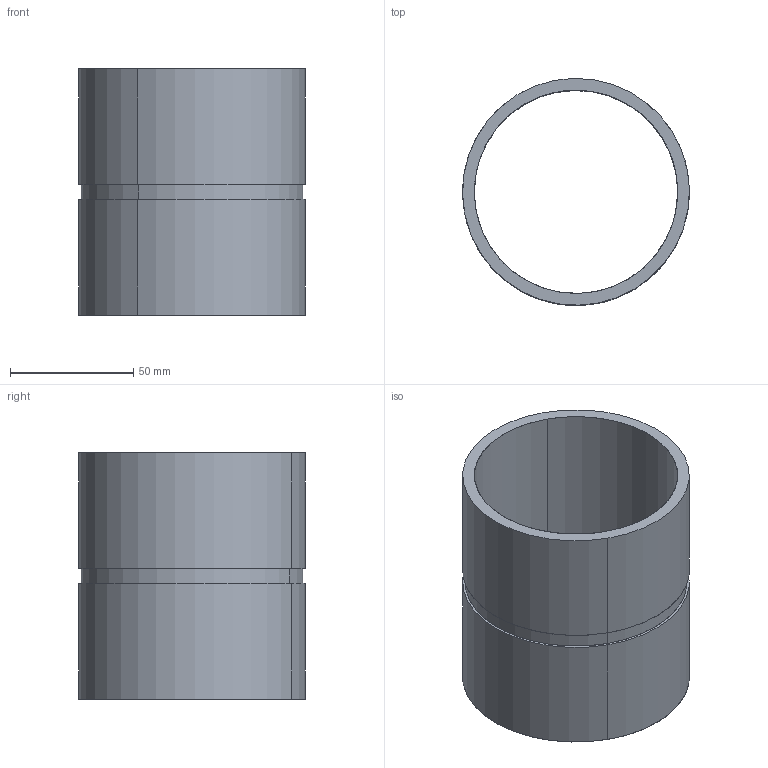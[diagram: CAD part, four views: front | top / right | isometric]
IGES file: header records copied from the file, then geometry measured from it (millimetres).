
Start section: START RECORD GO HERE.
Global section: file name: 395H 19-232-0160.igs; native system: DASSAULT SYSTEMES CATIA V5 R20 - www.3ds.com; preprocessor: CATIA Version 5 Release 20 ; author: Utente; organization: NB04-ASUS; date: 20200409.155531; units: millimetre
Bounding box: 92.05 x 92.08 x 100 mm (x, y, z)
Surface area: 58007.6 mm2 (no closed solid volume)
Topology: 0 solids, 0 shells, 12 faces, 51 edges, 55 vertices
Faces by surface type: revolution 8, plane 4
